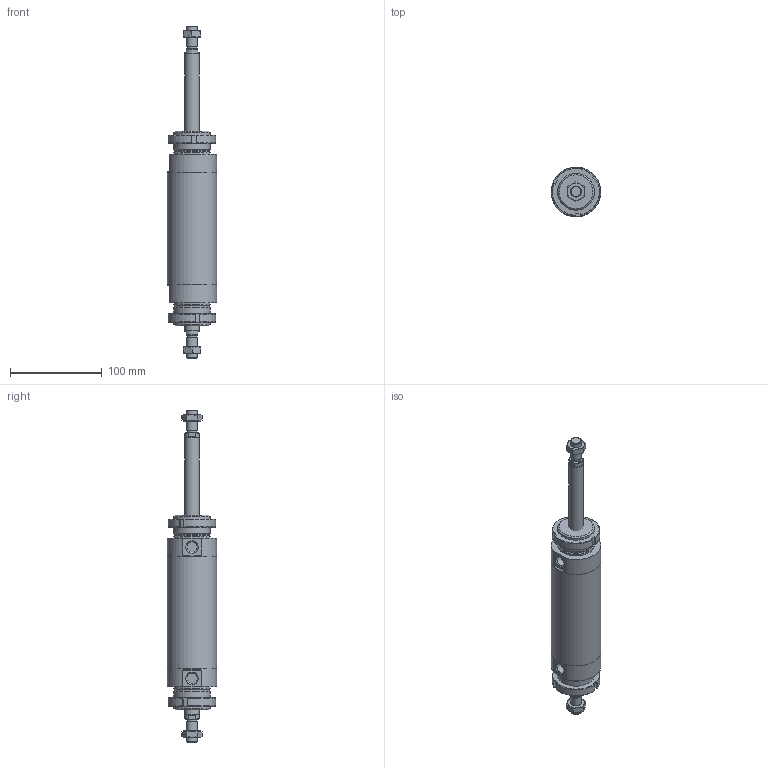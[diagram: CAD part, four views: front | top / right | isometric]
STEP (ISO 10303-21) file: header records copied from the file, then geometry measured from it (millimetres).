
FILE_DESCRIPTION(/* description */ (''),/* implementation_level */ '2;1');
FILE_NAME(/* name */ 'I:\Area Tecnica\Documenti\A-Manieri\_Inventor\12X\12X#S_###_####_#_#\12XCS_050_0080_#_#.stp',/* time_stamp */ '2015-05-08T14:18:40+02:00',/* author */ ('maniean1'),/* organization */ ('Pneumax S.p.A.'),/* preprocessor_version */ 'ST-DEVELOPER v15.2',/* originating_system */ 'Autodesk Inventor 2014',/* authorisation */ '');
FILE_SCHEMA (('AUTOMOTIVE_DESIGN { 1 0 10303 214 3 1 1 }'));
Length unit declared in the file: millimetre
Products named in the file (6): C1250_619-0080; 12X50_604; SP12X50_0080; 12X_50_11; G12X_050_05; 12XCS_050_0080_#_#
Bounding box: 54 x 54 x 362 mm (x, y, z)
Volume: 336649.1 mm3; surface area: 103223.1 mm2
Topology: 8 solids, 8 shells, 133 faces, 303 edges, 194 vertices
Faces by surface type: plane 66, cone 34, cylinder 33
Full cylindrical faces by diameter (mm): 10.2 x2, 11.4 x2, 12 x4, 14 x2, 15.6 x2, 16 x2, 38.2 x2, 40 x6, 50 x2, 54 x3
Entity records: 2300 total; most frequent: CARTESIAN_POINT 435, DIRECTION 388, ORIENTED_EDGE 310, AXIS2_PLACEMENT_3D 166, EDGE_CURVE 155, EDGE_LOOP 130, VERTEX_POINT 117, ADVANCED_FACE 85
